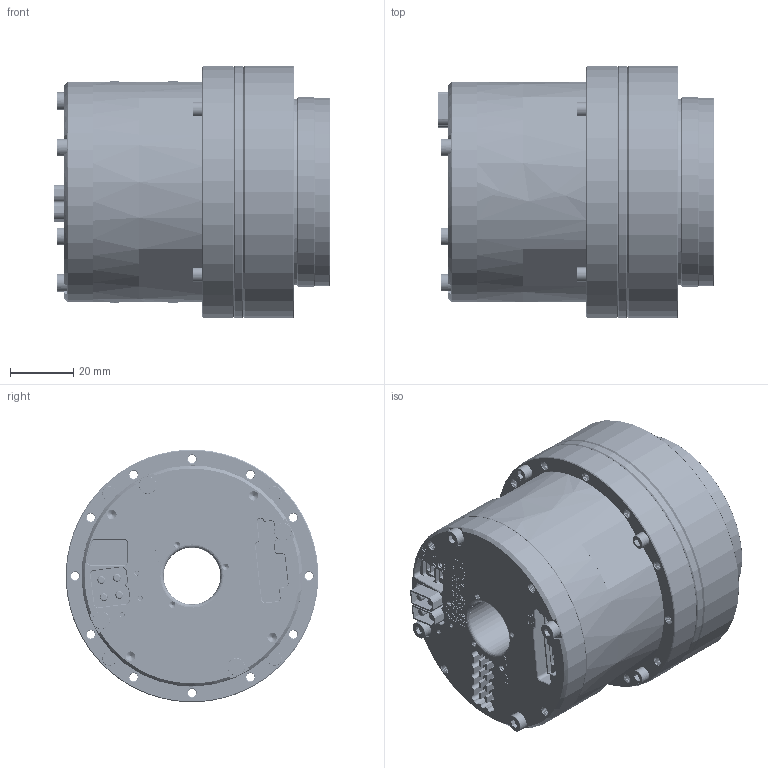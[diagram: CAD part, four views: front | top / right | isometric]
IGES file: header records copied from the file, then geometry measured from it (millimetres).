
Start section: SolidWorks IGES file using analytic representation for surfaces
Global section: file name: 06HG:\李鸿彬\00 官网需更新模型\00官网需更新模型 源文件\I型 待整理\检查\eRob80H××I-XX-18CX_V5_MC2D.DX.XX.igs; native system: SolidWorks 2021; preprocessor: SolidWorks 2021; author: ZERO; date: 240521.183628; units: millimetre
Bounding box: 87.6 x 80 x 80 mm (x, y, z)
Surface area: 46987.5 mm2 (no closed solid volume)
Topology: 0 solids, 0 shells, 4607 faces, 62899 edges, 62825 vertices
Faces by surface type: bspline 2564, revolution 2043
